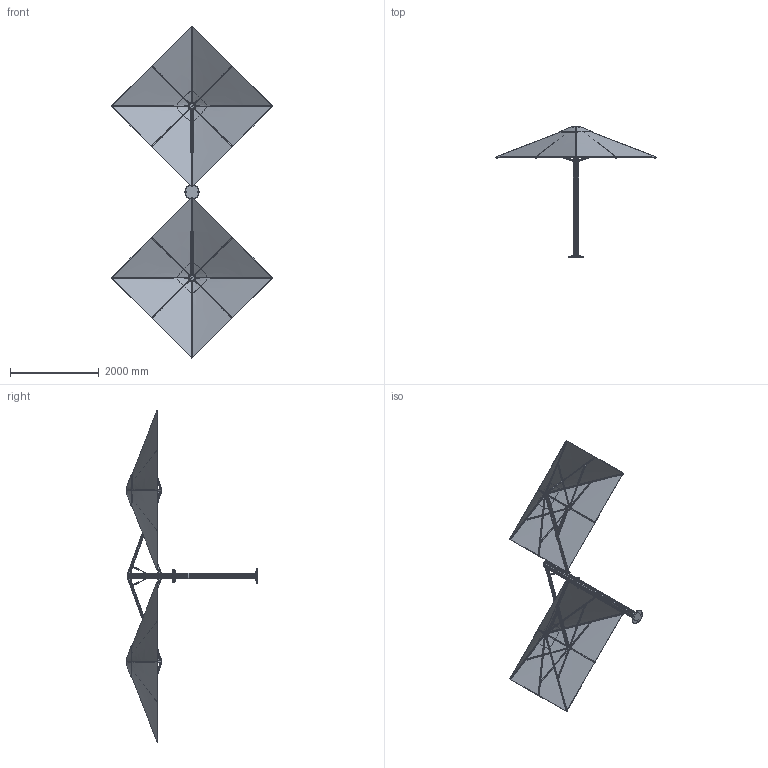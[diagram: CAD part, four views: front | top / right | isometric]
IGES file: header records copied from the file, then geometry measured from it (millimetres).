
Start section: SolidWorks IGES file using analytic representation for surfaces
Global section: file name: S:\SHADE UMBRELLAS\3. CAD Model Drawings. Data Sheets\SHADOWSPEC Unity & Serenity\IGES Files\2.5M CNR SQ Duo Opposite.IGS; native system: SolidWorks 2017; preprocessor: SolidWorks 2017; author: Peter; date: 200619.093925; units: millimetre
Bounding box: 3622.15 x 2943.5 x 7479.23 mm (x, y, z)
Surface area: 39380176.6 mm2 (no closed solid volume)
Topology: 0 solids, 0 shells, 3192 faces, 42930 edges, 42906 vertices
Faces by surface type: bspline 1610, revolution 1582
